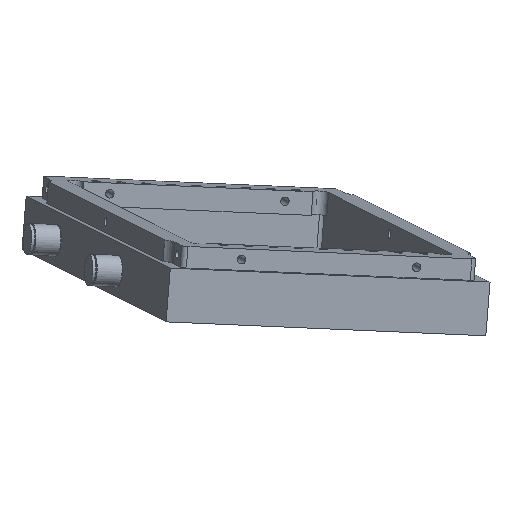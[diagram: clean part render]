
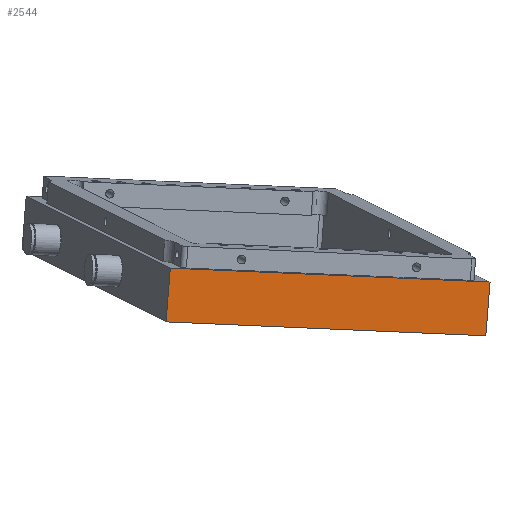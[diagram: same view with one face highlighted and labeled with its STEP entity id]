
A CAD part, left-side view. The second image highlights one B-rep face of the part: STEP entity #2544.
In plain terms, the highlighted planar face has unit normal (-0.954, -0.269, -0.135).
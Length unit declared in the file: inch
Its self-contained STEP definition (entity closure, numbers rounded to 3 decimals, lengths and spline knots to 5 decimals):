
#326=CARTESIAN_POINT('',(-3.42317,1.04505,-0.33103));
#327=VERTEX_POINT('',#326);
#342=CARTESIAN_POINT('',(-2.36321,-2.63709,-0.49087));
#343=VERTEX_POINT('',#342);
#350=CARTESIAN_POINT('',(-3.42317,1.04505,-0.33103));
#351=DIRECTION('',(0.276,-0.96,-0.042));
#352=VECTOR('',#351,3.835);
#353=LINE('',#350,#352);
#354=EDGE_CURVE('',#327,#343,#353,.T.);
#436=CARTESIAN_POINT('',(-2.43693,-2.68517,0.1279));
#437=VERTEX_POINT('',#436);
#444=CARTESIAN_POINT('',(-2.43693,-2.68517,0.1279));
#445=DIRECTION('',(0.118,0.077,-0.99));
#446=VECTOR('',#445,0.625);
#447=LINE('',#444,#446);
#448=EDGE_CURVE('',#437,#343,#447,.T.);
#613=CARTESIAN_POINT('',(-3.49689,0.99697,0.28774));
#614=VERTEX_POINT('',#613);
#630=CARTESIAN_POINT('',(-3.49689,0.99697,0.28774));
#631=DIRECTION('',(0.118,0.077,-0.99));
#632=VECTOR('',#631,0.625);
#633=LINE('',#630,#632);
#634=EDGE_CURVE('',#614,#327,#633,.T.);
#1678=CARTESIAN_POINT('',(-2.43693,-2.68517,0.1279));
#1679=DIRECTION('',(-0.276,0.96,0.042));
#1680=VECTOR('',#1679,3.835);
#1681=LINE('',#1678,#1680);
#1682=EDGE_CURVE('',#437,#614,#1681,.T.);
#2533=CARTESIAN_POINT('',(-3.52638,0.97774,0.53525));
#2534=DIRECTION('',(-0.954,-0.269,-0.135));
#2535=DIRECTION('',(-0.118,-0.077,0.99));
#2536=AXIS2_PLACEMENT_3D('',#2533,#2534,#2535);
#2537=PLANE('',#2536);
#2538=ORIENTED_EDGE('',*,*,#1682,.T.);
#2539=ORIENTED_EDGE('',*,*,#634,.T.);
#2540=ORIENTED_EDGE('',*,*,#354,.T.);
#2541=ORIENTED_EDGE('',*,*,#448,.F.);
#2542=EDGE_LOOP('',(#2538,#2539,#2540,#2541));
#2543=FACE_OUTER_BOUND('',#2542,.T.);
#2544=ADVANCED_FACE('',(#2543),#2537,.T.);
